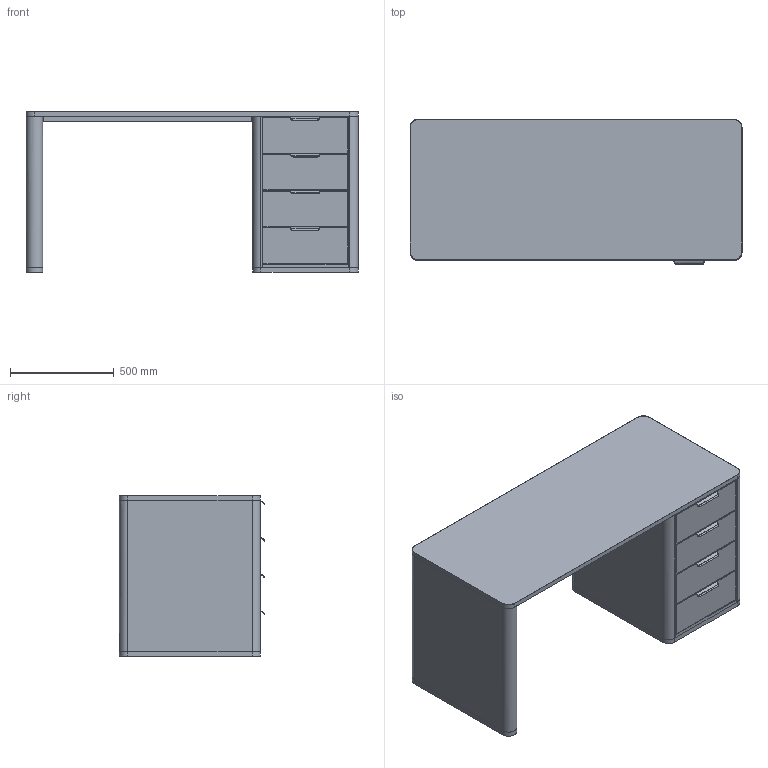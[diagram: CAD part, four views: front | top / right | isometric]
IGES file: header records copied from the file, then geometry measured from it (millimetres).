
Start section: Comment
Global section: file name: NC-Tisch.igs; native system:  By UGS Corp.; preprocessor: XPlus GENERIC/IGES 3.0; author: Author; organization: Title; date: 20210906.151042; units: inch
Bounding box: 1600 x 700.33 x 774.52 mm (x, y, z)
Surface area: 7075927 mm2 (no closed solid volume)
Topology: 0 solids, 0 shells, 227 faces, 1148 edges, 1148 vertices
Faces by surface type: bspline 227
